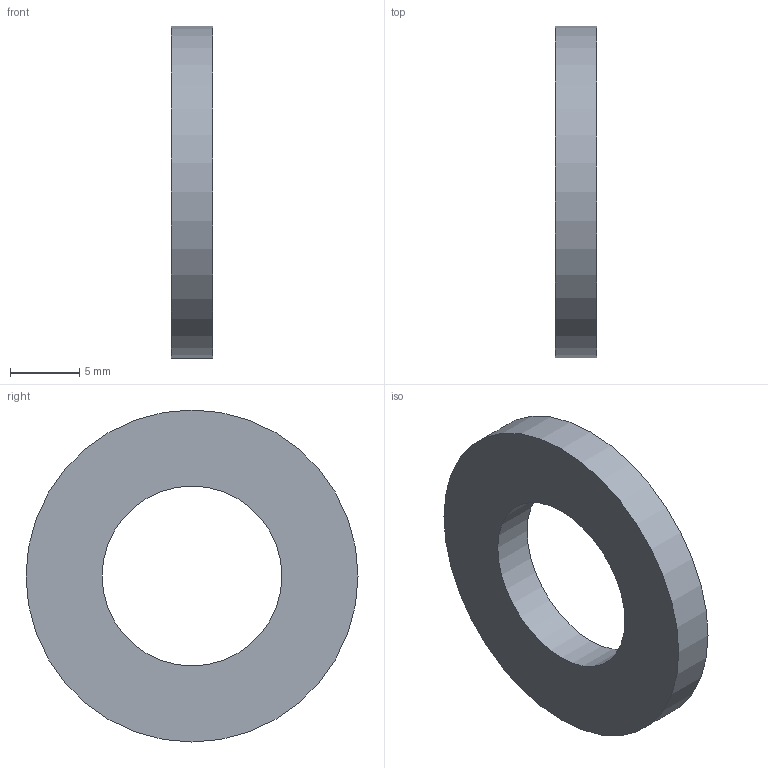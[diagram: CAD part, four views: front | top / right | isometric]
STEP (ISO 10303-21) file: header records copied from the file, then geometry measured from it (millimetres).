
FILE_DESCRIPTION(/* description */ ('평면 와셔'),/* implementation_level */ '2;1');
FILE_NAME(/* name */ '',/* time_stamp */ '2025-03-27T10:12:49+09:00',/* author */ ('jhkim'),/* organization */ (''),/* preprocessor_version */ 'ST-DEVELOPER v20',/* originating_system */ 'Autodesk Inventor 2025',/* authorisation */ '');
FILE_SCHEMA (('AUTOMOTIVE_DESIGN { 1 0 10303 214 3 1 1 }'));
Length unit declared in the file: millimetre
Products named in the file (1): 평와셔 M12
Bounding box: 3 x 24 x 24 mm (x, y, z)
Volume: 959 mm3; surface area: 988 mm2
Topology: 1 solids, 1 shells, 4 faces, 6 edges, 4 vertices
Faces by surface type: cylinder 2, plane 2
Full cylindrical faces by diameter (mm): 13 x1, 24 x1
Entity records: 141 total; most frequent: DIRECTION 20, CARTESIAN_POINT 15, ORIENTED_EDGE 12, AXIS2_PLACEMENT_3D 9, EDGE_LOOP 6, EDGE_CURVE 6, FACE_OUTER_BOUND 4, CIRCLE 4
